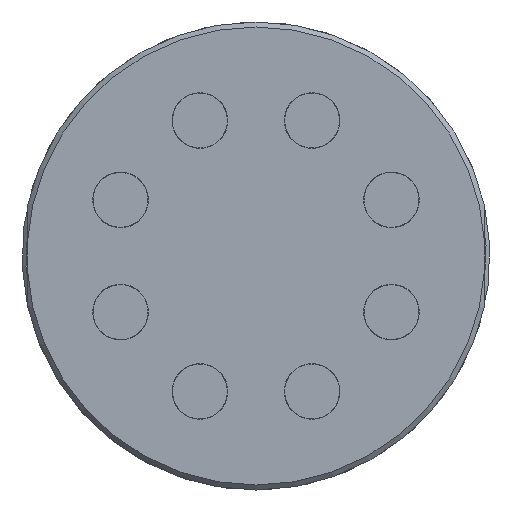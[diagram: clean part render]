
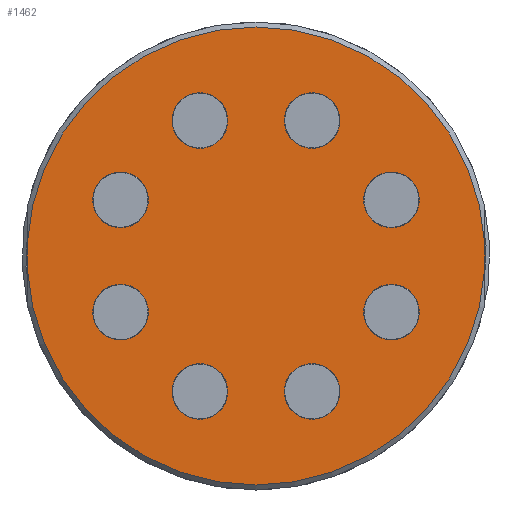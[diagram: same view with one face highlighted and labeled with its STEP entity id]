
A CAD part, front view. The second image highlights one B-rep face of the part: STEP entity #1462.
In plain terms, the highlighted planar face has unit normal (0, -1, 0).
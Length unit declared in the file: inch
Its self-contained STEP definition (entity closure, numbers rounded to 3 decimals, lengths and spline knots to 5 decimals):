
#166=LINE('',#2346,#202);
#172=LINE('',#2407,#208);
#202=VECTOR('',#1871,0.20977);
#208=VECTOR('',#1897,0.20977);
#242=PLANE('',#1599);
#295=FACE_BOUND('',#546,.T.);
#296=FACE_BOUND('',#547,.T.);
#297=FACE_BOUND('',#548,.T.);
#298=FACE_BOUND('',#549,.T.);
#299=FACE_BOUND('',#550,.T.);
#300=FACE_BOUND('',#551,.T.);
#301=FACE_BOUND('',#552,.T.);
#302=FACE_BOUND('',#553,.T.);
#419=FACE_OUTER_BOUND('',#545,.T.);
#545=EDGE_LOOP('',(#1206,#1207,#1208,#1209));
#546=EDGE_LOOP('',(#1210));
#547=EDGE_LOOP('',(#1211));
#548=EDGE_LOOP('',(#1212));
#549=EDGE_LOOP('',(#1213));
#550=EDGE_LOOP('',(#1214));
#551=EDGE_LOOP('',(#1215));
#552=EDGE_LOOP('',(#1216));
#553=EDGE_LOOP('',(#1217));
#712=CIRCLE('',#1556,0.223);
#713=CIRCLE('',#1558,0.223);
#714=CIRCLE('',#1560,0.223);
#715=CIRCLE('',#1562,0.223);
#716=CIRCLE('',#1564,0.223);
#717=CIRCLE('',#1566,0.223);
#718=CIRCLE('',#1568,0.223);
#719=CIRCLE('',#1570,0.223);
#729=CIRCLE('',#1593,1.835);
#731=CIRCLE('',#1600,1.835);
#819=VERTEX_POINT('',#2274);
#820=VERTEX_POINT('',#2277);
#821=VERTEX_POINT('',#2280);
#822=VERTEX_POINT('',#2283);
#823=VERTEX_POINT('',#2286);
#824=VERTEX_POINT('',#2289);
#825=VERTEX_POINT('',#2292);
#826=VERTEX_POINT('',#2295);
#841=VERTEX_POINT('',#2341);
#842=VERTEX_POINT('',#2345);
#847=VERTEX_POINT('',#2374);
#854=VERTEX_POINT('',#2406);
#958=EDGE_CURVE('',#819,#819,#712,.T.);
#959=EDGE_CURVE('',#820,#820,#713,.T.);
#960=EDGE_CURVE('',#821,#821,#714,.T.);
#961=EDGE_CURVE('',#822,#822,#715,.T.);
#962=EDGE_CURVE('',#823,#823,#716,.T.);
#963=EDGE_CURVE('',#824,#824,#717,.T.);
#964=EDGE_CURVE('',#825,#825,#718,.T.);
#965=EDGE_CURVE('',#826,#826,#719,.T.);
#981=EDGE_CURVE('',#842,#841,#166,.T.);
#990=EDGE_CURVE('',#842,#847,#729,.T.);
#1001=EDGE_CURVE('',#854,#847,#172,.T.);
#1003=EDGE_CURVE('',#854,#841,#731,.T.);
#1206=ORIENTED_EDGE('',*,*,#981,.T.);
#1207=ORIENTED_EDGE('',*,*,#1003,.F.);
#1208=ORIENTED_EDGE('',*,*,#1001,.T.);
#1209=ORIENTED_EDGE('',*,*,#990,.F.);
#1210=ORIENTED_EDGE('',*,*,#958,.T.);
#1211=ORIENTED_EDGE('',*,*,#959,.T.);
#1212=ORIENTED_EDGE('',*,*,#960,.T.);
#1213=ORIENTED_EDGE('',*,*,#961,.T.);
#1214=ORIENTED_EDGE('',*,*,#962,.T.);
#1215=ORIENTED_EDGE('',*,*,#963,.T.);
#1216=ORIENTED_EDGE('',*,*,#964,.T.);
#1217=ORIENTED_EDGE('',*,*,#965,.T.);
#1462=ADVANCED_FACE('',(#419,#295,#296,#297,#298,#299,#300,#301,#302),#242,
 .T.);
#1556=AXIS2_PLACEMENT_3D('',#2275,#1802,#1803);
#1558=AXIS2_PLACEMENT_3D('',#2278,#1806,#1807);
#1560=AXIS2_PLACEMENT_3D('',#2281,#1810,#1811);
#1562=AXIS2_PLACEMENT_3D('',#2284,#1814,#1815);
#1564=AXIS2_PLACEMENT_3D('',#2287,#1818,#1819);
#1566=AXIS2_PLACEMENT_3D('',#2290,#1822,#1823);
#1568=AXIS2_PLACEMENT_3D('',#2293,#1826,#1827);
#1570=AXIS2_PLACEMENT_3D('',#2296,#1830,#1831);
#1593=AXIS2_PLACEMENT_3D('',#2375,#1881,#1882);
#1599=AXIS2_PLACEMENT_3D('',#2411,#1898,#1899);
#1600=AXIS2_PLACEMENT_3D('',#2412,#1900,#1901);
#1802=DIRECTION('center_axis',(0.,1.,0.));
#1803=DIRECTION('ref_axis',(1.,0.,0.));
#1806=DIRECTION('center_axis',(0.,1.,0.));
#1807=DIRECTION('ref_axis',(1.,0.,0.));
#1810=DIRECTION('center_axis',(0.,1.,0.));
#1811=DIRECTION('ref_axis',(1.,0.,0.));
#1814=DIRECTION('center_axis',(0.,1.,0.));
#1815=DIRECTION('ref_axis',(1.,0.,0.));
#1818=DIRECTION('center_axis',(0.,1.,0.));
#1819=DIRECTION('ref_axis',(1.,0.,0.));
#1822=DIRECTION('center_axis',(0.,1.,0.));
#1823=DIRECTION('ref_axis',(1.,0.,0.));
#1826=DIRECTION('center_axis',(0.,1.,0.));
#1827=DIRECTION('ref_axis',(1.,0.,0.));
#1830=DIRECTION('center_axis',(0.,1.,0.));
#1831=DIRECTION('ref_axis',(1.,0.,0.));
#1871=DIRECTION('',(0.,0.,1.));
#1881=DIRECTION('center_axis',(0.,1.,0.));
#1882=DIRECTION('ref_axis',(1.,0.,0.));
#1897=DIRECTION('',(0.,0.,-1.));
#1898=DIRECTION('center_axis',(0.,-1.,0.));
#1899=DIRECTION('ref_axis',(0.,0.,-1.));
#1900=DIRECTION('center_axis',(0.,1.,0.));
#1901=DIRECTION('ref_axis',(1.,0.,0.));
#2274=CARTESIAN_POINT('',(-0.67265,-0.45,-1.08556));
#2275=CARTESIAN_POINT('Origin',(-0.44965,-0.45,-1.08556));
#2277=CARTESIAN_POINT('',(0.22665,-0.45,-1.08556));
#2278=CARTESIAN_POINT('Origin',(0.44965,-0.45,-1.08556));
#2280=CARTESIAN_POINT('',(0.86256,-0.45,-0.44965));
#2281=CARTESIAN_POINT('Origin',(1.08556,-0.45,-0.44965));
#2283=CARTESIAN_POINT('',(0.86256,-0.45,0.44965));
#2284=CARTESIAN_POINT('Origin',(1.08556,-0.45,0.44965));
#2286=CARTESIAN_POINT('',(0.22665,-0.45,1.08556));
#2287=CARTESIAN_POINT('Origin',(0.44965,-0.45,1.08556));
#2289=CARTESIAN_POINT('',(-0.67265,-0.45,1.08556));
#2290=CARTESIAN_POINT('Origin',(-0.44965,-0.45,1.08556));
#2292=CARTESIAN_POINT('',(-1.30856,-0.45,0.44965));
#2293=CARTESIAN_POINT('Origin',(-1.08556,-0.45,0.44965));
#2295=CARTESIAN_POINT('',(-1.30856,-0.45,-0.44965));
#2296=CARTESIAN_POINT('Origin',(-1.08556,-0.45,-0.44965));
#2341=CARTESIAN_POINT('',(1.832,-0.45,0.10489));
#2345=CARTESIAN_POINT('',(1.832,-0.45,-0.10489));
#2346=CARTESIAN_POINT('',(1.832,-0.45,0.));
#2374=CARTESIAN_POINT('',(-1.832,-0.45,-0.10489));
#2375=CARTESIAN_POINT('Origin',(0.,-0.45,0.));
#2406=CARTESIAN_POINT('',(-1.832,-0.45,0.10489));
#2407=CARTESIAN_POINT('',(-1.832,-0.45,0.));
#2411=CARTESIAN_POINT('Origin',(0.,-0.45,0.));
#2412=CARTESIAN_POINT('Origin',(0.,-0.45,0.));
